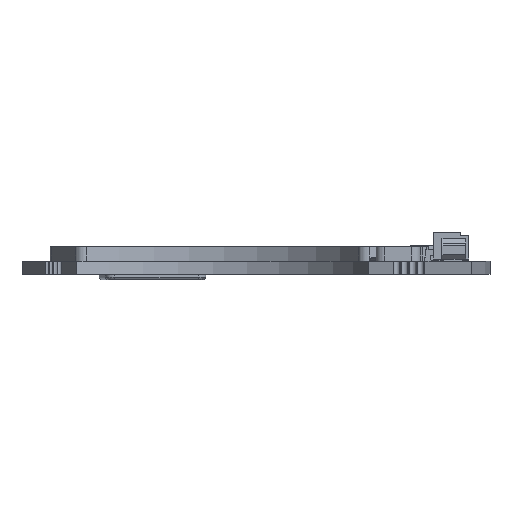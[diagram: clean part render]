
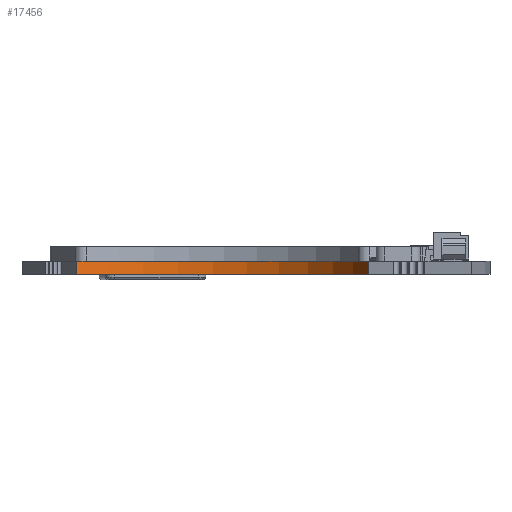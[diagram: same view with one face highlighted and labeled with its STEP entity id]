
A CAD part, front view. The second image highlights one B-rep face of the part: STEP entity #17456.
In plain terms, the highlighted cylindrical face has radius 24 mm (diameter 48 mm), a partial arc.
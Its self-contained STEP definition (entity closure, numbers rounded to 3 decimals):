
#832 = ORIENTED_EDGE ( 'NONE', *, *, #8322, .F. ) ;
#3858 = CARTESIAN_POINT ( 'NONE',  ( -12., 20.785, -1.582 ) ) ;
#4060 = VECTOR ( 'NONE', #42728, 1000. ) ;
#5219 = DIRECTION ( 'NONE',  ( 0., 0., -1. ) ) ;
#6060 = EDGE_CURVE ( 'NONE', #34861, #7773, #8671, .T. ) ;
#6250 = ORIENTED_EDGE ( 'NONE', *, *, #13436, .F. ) ;
#7477 = LINE ( 'NONE', #11087, #4060 ) ;
#7773 = VERTEX_POINT ( 'NONE', #21224 ) ;
#7892 = CIRCLE ( 'NONE', #20844, 24. ) ;
#8322 = EDGE_CURVE ( 'NONE', #20263, #34861, #41094, .T. ) ;
#8671 = CIRCLE ( 'NONE', #20922, 24. ) ;
#11087 = CARTESIAN_POINT ( 'NONE',  ( 22.553, -8.208, -1.582 ) ) ;
#12263 = CYLINDRICAL_SURFACE ( 'NONE', #42030, 24. ) ;
#13436 = EDGE_CURVE ( 'NONE', #7773, #23639, #7477, .T. ) ;
#17456 = ADVANCED_FACE ( 'NONE', ( #28835 ), #12263, .F. ) ;
#19176 = CARTESIAN_POINT ( 'NONE',  ( -12., 20.785, 0. ) ) ;
#20263 = VERTEX_POINT ( 'NONE', #3858 ) ;
#20844 = AXIS2_PLACEMENT_3D ( 'NONE', #32001, #31788, #28374 ) ;
#20922 = AXIS2_PLACEMENT_3D ( 'NONE', #22168, #26044, #39289 ) ;
#21224 = CARTESIAN_POINT ( 'NONE',  ( 22.553, -8.208, 0. ) ) ;
#22168 = CARTESIAN_POINT ( 'NONE',  ( 0., 0., 0. ) ) ;
#22646 = DIRECTION ( 'NONE',  ( -1., 0., 0. ) ) ;
#23639 = VERTEX_POINT ( 'NONE', #42755 ) ;
#24695 = EDGE_CURVE ( 'NONE', #23639, #20263, #7892, .T. ) ;
#26044 = DIRECTION ( 'NONE',  ( 0., 0., -1. ) ) ;
#27820 = CARTESIAN_POINT ( 'NONE',  ( -12., 20.785, -1.582 ) ) ;
#28374 = DIRECTION ( 'NONE',  ( -1., 0., 0. ) ) ;
#28375 = VECTOR ( 'NONE', #35140, 1000. ) ;
#28835 = FACE_OUTER_BOUND ( 'NONE', #38200, .T. ) ;
#31788 = DIRECTION ( 'NONE',  ( 0., 0., 1. ) ) ;
#32001 = CARTESIAN_POINT ( 'NONE',  ( 0., 0., -1.582 ) ) ;
#32281 = ORIENTED_EDGE ( 'NONE', *, *, #6060, .F. ) ;
#34861 = VERTEX_POINT ( 'NONE', #19176 ) ;
#35140 = DIRECTION ( 'NONE',  ( 0., 0., 1. ) ) ;
#38200 = EDGE_LOOP ( 'NONE', ( #32281, #832, #44929, #6250 ) ) ;
#39289 = DIRECTION ( 'NONE',  ( -1., 0., 0. ) ) ;
#41094 = LINE ( 'NONE', #27820, #28375 ) ;
#42030 = AXIS2_PLACEMENT_3D ( 'NONE', #42787, #5219, #22646 ) ;
#42728 = DIRECTION ( 'NONE',  ( 0., 0., -1. ) ) ;
#42755 = CARTESIAN_POINT ( 'NONE',  ( 22.553, -8.208, -1.582 ) ) ;
#42787 = CARTESIAN_POINT ( 'NONE',  ( 0., 0., -1.582 ) ) ;
#44929 = ORIENTED_EDGE ( 'NONE', *, *, #24695, .F. ) ;
